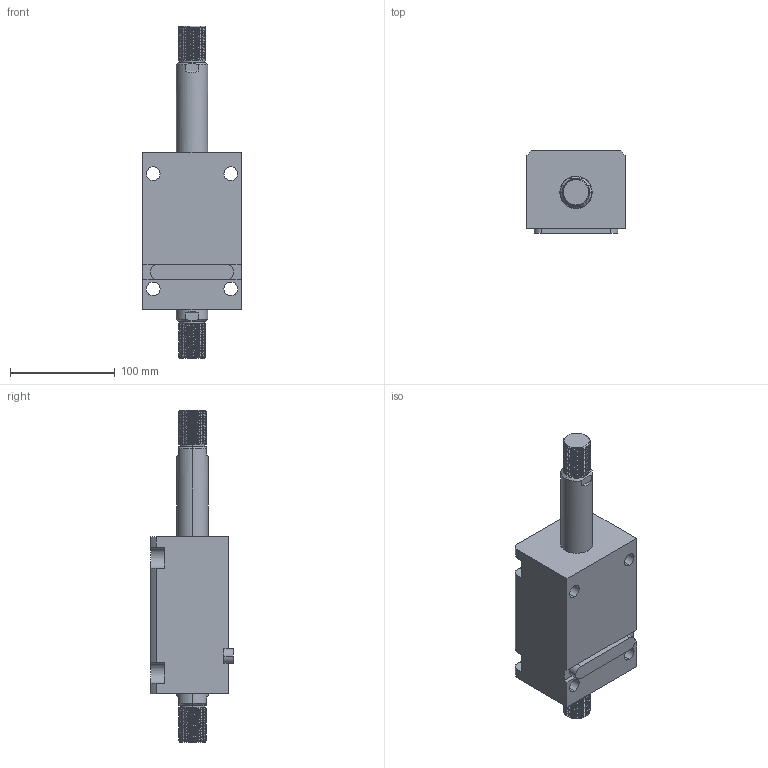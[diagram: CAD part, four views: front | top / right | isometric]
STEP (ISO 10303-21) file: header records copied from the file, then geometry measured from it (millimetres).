
FILE_DESCRIPTION (( 'STEP AP203' ), '1' );
FILE_NAME ('CHTB-LW50-75W.STEP', '2018-05-18T08:56:08', ( '' ), ( '' ), 'SwSTEP 2.0', 'SolidWorks 2015', '' );
FILE_SCHEMA (( 'CONFIG_CONTROL_DESIGN' ));
Length unit declared in the file: millimetre
Products named in the file (4): 活塞杆LW50-75W; CHTB-LW50-75W; CHTM-SDMA50QG; 掛极LW50-75W
Assembly tree (3 placements, depth 2):
  CHTB-LW50-75W
    掛极LW50-75W
    活塞杆LW50-75W
    CHTM-SDMA50QG
Bounding box: 94 x 79 x 317 mm (x, y, z)
Volume: 996296 mm3; surface area: 150828.7 mm2
Topology: 3 solids, 3 shells, 310 faces, 854 edges, 568 vertices
Faces by surface type: cylinder 186, plane 63, cone 27, bspline 18, torus 16
Entity records: 19510 total; most frequent: CARTESIAN_POINT 11940, ORIENTED_EDGE 1700, DIRECTION 1310, EDGE_CURVE 850, VERTEX_POINT 568, AXIS2_PLACEMENT_3D 503, EDGE_LOOP 348, ADVANCED_FACE 310
